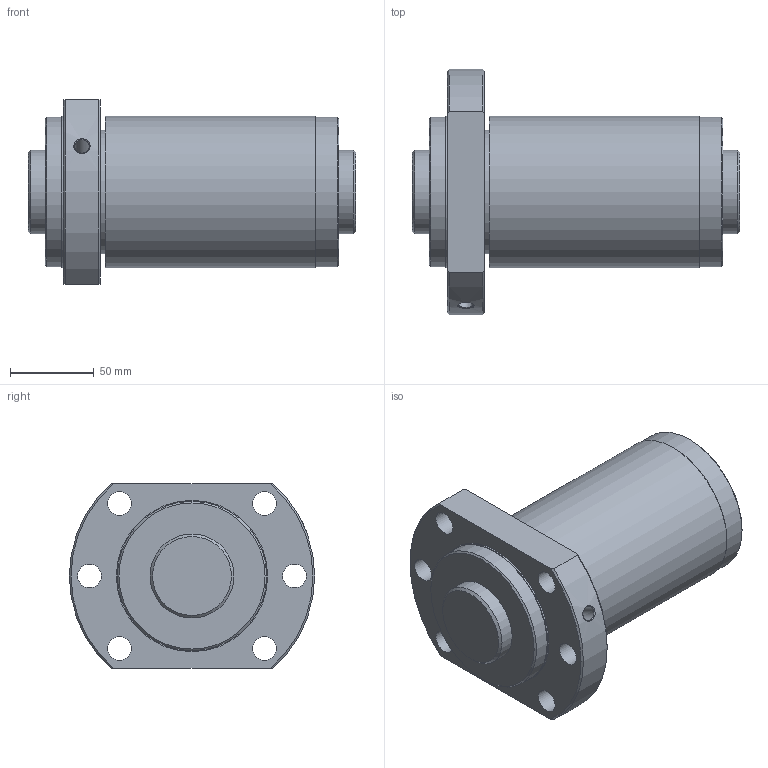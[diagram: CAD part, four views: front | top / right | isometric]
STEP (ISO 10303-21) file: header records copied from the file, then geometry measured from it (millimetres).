
FILE_DESCRIPTION(/* description */ ('STEP AP203'),/* implementation_level */ '2;1');
FILE_NAME(/* name */ 'SBK5050-5.6RRG0+195LC0(0000)',/* time_stamp */ '2024-05-28T11:20:41+02:00',/* author */ ('License CC BY-ND 4.0'),/* organization */ ('CADENAS'),/* preprocessor_version */ 'ST-DEVELOPER v19.3',/* originating_system */ 'PARTsolutions',/* authorisation */ ' ');
FILE_SCHEMA (('CONFIG_CONTROL_DESIGN'));
Length unit declared in the file: millimetre
Products named in the file (3): SBK5050-5.6RRG0+195LC0(0000); NRR000SBK5050-5.60Shaft; NRR000SBK5050-5.6Nut
Assembly tree (2 placements, depth 2):
  SBK5050-5.6RRG0+195LC0(0000)
    NRR000SBK5050-5.60Shaft
    NRR000SBK5050-5.6Nut
Bounding box: 195 x 146 x 110 mm (x, y, z)
Volume: 1295946.6 mm3; surface area: 147764.2 mm2
Topology: 2 solids, 2 shells, 37 faces, 80 edges, 52 vertices
Faces by surface type: cylinder 16, plane 11, cone 10
Full cylindrical faces by diameter (mm): 8.566 x1, 14 x6, 50 x2, 73.62 x1, 89 x2, 90 x2
Entity records: 1020 total; most frequent: CARTESIAN_POINT 183, DIRECTION 168, ORIENTED_EDGE 114, AXIS2_PLACEMENT_3D 80, FACE_BOUND 77, EDGE_LOOP 76, EDGE_CURVE 57, VERTEX_POINT 50
